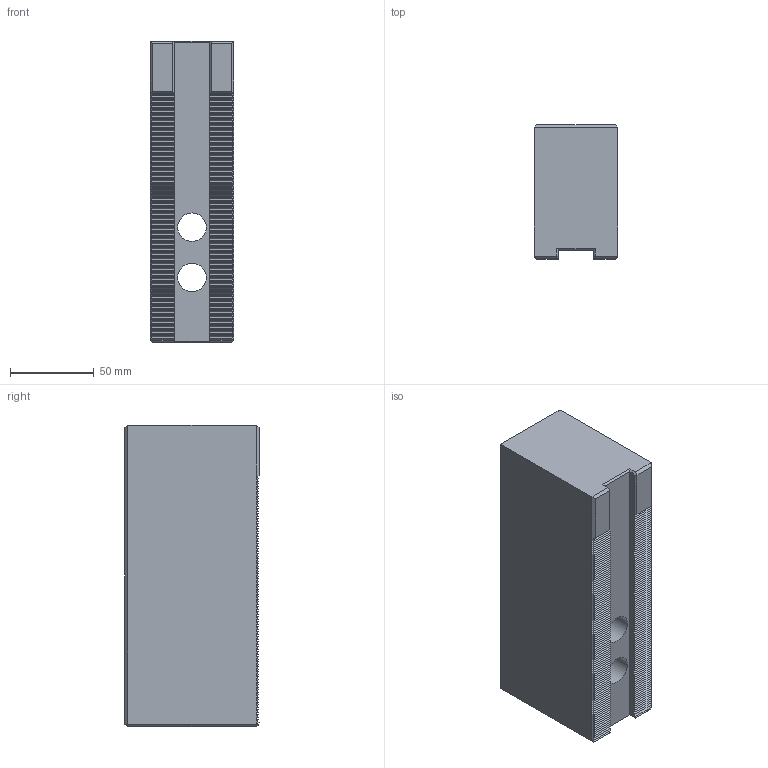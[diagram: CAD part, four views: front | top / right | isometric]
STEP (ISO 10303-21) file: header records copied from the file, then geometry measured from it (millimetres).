
FILE_DESCRIPTION(/* description */ (''),/* implementation_level */ '2;1');
FILE_NAME(/* name */ 'SC-12L180H80-21.stp',/* time_stamp */ '2025-10-20T12:36:52+03:00',/* author */ ('Arina Rekina'),/* organization */ (''),/* preprocessor_version */ 'ST-DEVELOPER v19.2',/* originating_system */ 'Autodesk Inventor 2024',/* authorisation */ '');
FILE_SCHEMA (('AUTOMOTIVE_DESIGN { 1 0 10303 214 3 1 1 }'));
Length unit declared in the file: millimetre
Products named in the file (1): SC-12H80-21
Bounding box: 50 x 80 x 180 mm (x, y, z)
Volume: 632769.6 mm3; surface area: 68915.1 mm2
Topology: 1 solids, 1 shells, 638 faces, 1484 edges, 850 vertices
Faces by surface type: plane 632, cylinder 4, cone 2
Full cylindrical faces by diameter (mm): 17 x2, 24.5 x2
Entity records: 17267 total; most frequent: CARTESIAN_POINT 2973, ORIENTED_EDGE 2968, DIRECTION 2774, EDGE_CURVE 1484, LINE 1472, VECTOR 1472, VERTEX_POINT 850, AXIS2_PLACEMENT_3D 651
